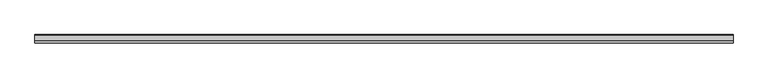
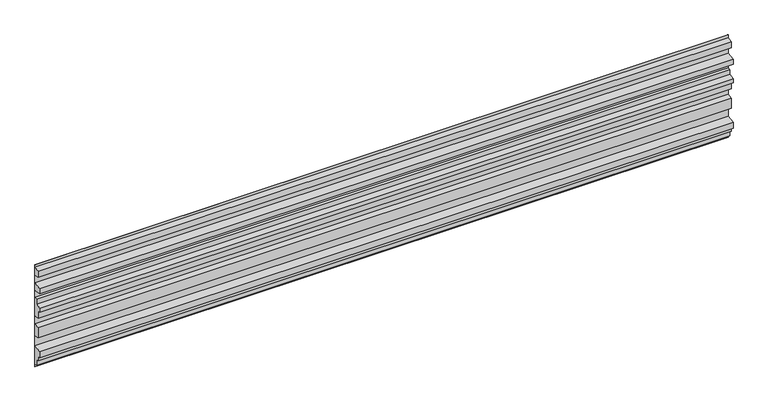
"""IFC4 building model written with IfcOpenShell, lengths in millimetres: plate geometry, ATELIERS 3S_NEW YORK MANHATTAN 780_HORIZONTAL : AZURO."""

from ifc_helpers import new_model, si_unit, frame, origin, place, context, project, spatial, polyline, outline, extrude, source, transform, mapped, element, save


def plate_45eb5c23(model_context):
    return source(origin(), model_context, "Body", "SweptSolid", [
        extrude(outline(polyline([(-40.75, 752.9516131), (-0.8, 759.995876), (-0.8, 780.0), (0.0, 780.0), (0.0, 0.0), (-0.8, 0.0), (-0.8, 19.6941775), (-20.7501589, 23.211221), (-20.7501589, 68.2118488), (-40.7500015, 71.7384174), (-40.7500015, 101.7384166), (-60.7500001, 105.2649565), (-60.7500001, 150.8942812), (-0.75, 161.4739), (-0.75, 238.8445753), (-40.75, 245.8976546), (-40.75, 321.5269793), (-0.75, 328.5800585), (-0.75, 387.9507338), (-40.75, 395.003813), (-40.75, 450.003813), (-60.75, 453.5303526), (-60.75, 484.1596773), (-20.75, 491.2127566), (-20.75, 526.2127566), (-0.75, 529.7392962), (-0.75, 584.1099715), (-60.75, 594.6895903), (-60.75, 630.318915), (-0.75, 640.8985339), (-0.75, 700.2692092), (-40.75, 707.3222884), (-40.75, 752.9516131)])), frame((-2500.0, 0.0, 0.0), z_axis=(1.0, 0.0, 0.0), x_axis=(0.0, 1.0, 0.0)), (0.0, 0.0, 1.0), 5000.0),
    ])


if __name__ == "__main__":
    model = new_model("IFC4")
    model_context = context("Model", 3, world=origin())
    ifc_project = project(units=[si_unit("LENGTHUNIT", "METRE", prefix="MILLI")], contexts=[model_context])
    site = spatial("IfcSite", under=ifc_project)
    building = spatial("IfcBuilding", under=site)
    placement = place(None, origin())
    plate_shape = plate_45eb5c23(model_context)
    element("IfcPlate", 1, ObjectType="ATELIERS 3S_NEW YORK MANHATTAN 780_HORIZONTAL : AZURO", at=placement, inside=building, context=model_context, shape_type="MappedRepresentation", body=[
        mapped(plate_shape, transform((0.0, 0.0, 0.0), x_axis=(1.0, 0.0, 0.0), y_axis=(0.0, 1.0, 0.0), z_axis=(0.0, 0.0, 1.0))),
    ])
    save(model, "model.ifc")
